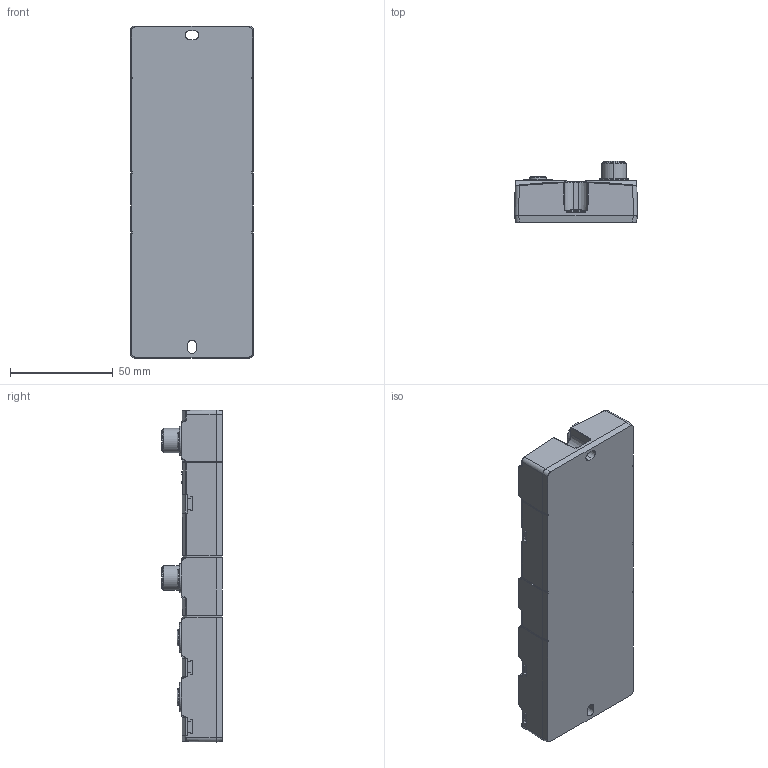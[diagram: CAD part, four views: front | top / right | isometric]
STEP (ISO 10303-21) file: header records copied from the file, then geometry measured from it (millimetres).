
FILE_DESCRIPTION((''),'2;1');
FILE_NAME('2008415','2011-01-27T',('smayer'),(''),'PRO/ENGINEER BY PARAMETRIC TECHNOLOGY CORPORATION, 2009380','PRO/ENGINEER BY PARAMETRIC TECHNOLOGY CORPORATION, 2009380','');
FILE_SCHEMA(('AUTOMOTIVE_DESIGN_CC2 { 1 2 10303 214 -1 1 5 2 }'));
Products named in the file (1): 2008415
Bounding box: 59.9 x 29.6 x 161.9 mm (x, y, z)
Volume: 181836.9 mm3; surface area: 43872.2 mm2
Topology: 16 solids, 16 shells, 1348 faces, 3264 edges, 2105 vertices
Faces by surface type: plane 619, cylinder 464, cone 115, bspline 112, torus 34, sphere 4
Entity records: 60699 total; most frequent: CARTESIAN_POINT 19172, DIRECTION 6564, ORIENTED_EDGE 6446, PRESENTATION_STYLE_ASSIGNMENT 3250, STYLED_ITEM 3245, CURVE_STYLE 3229, EDGE_CURVE 3223, AXIS2_PLACEMENT_3D 2462
